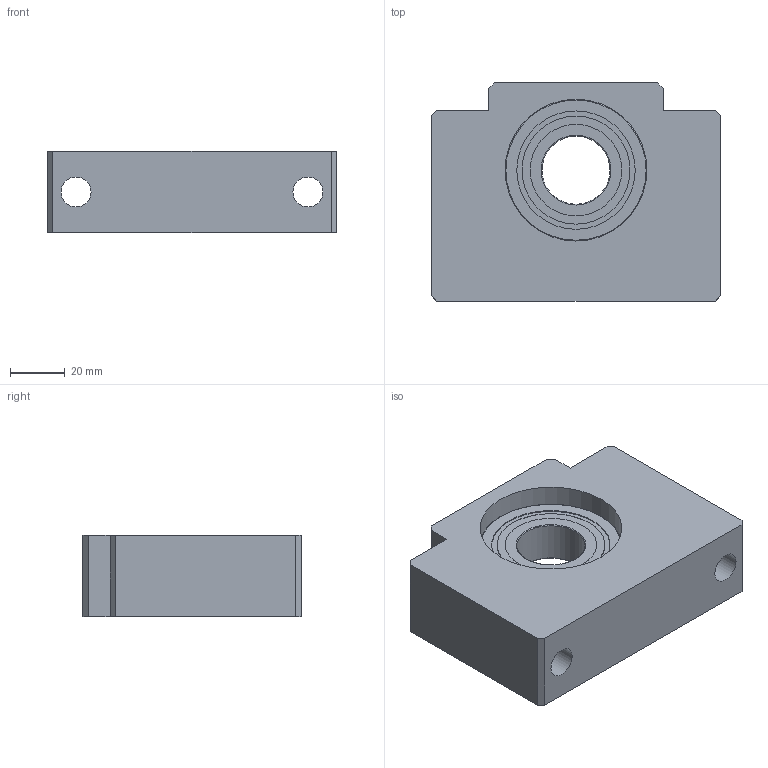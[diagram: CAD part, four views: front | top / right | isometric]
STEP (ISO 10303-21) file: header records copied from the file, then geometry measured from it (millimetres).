
FILE_DESCRIPTION(/* description */ ('STEP AP214'),/* implementation_level */ '2;1');
FILE_NAME(/* name */ 'BF25',/* time_stamp */ '2026-09-17T13:13:39+02:00',/* author */ ('License CC BY-ND 4.0'),/* organization */ ('CADENAS'),/* preprocessor_version */ 'ST-DEVELOPER v20',/* originating_system */ 'PARTsolutions',/* authorisation */ ' ');
FILE_SCHEMA (('AUTOMOTIVE_DESIGN {1 0 10303 214 3 1 1}'));
Length unit declared in the file: millimetre
Products named in the file (3): BF25; BF 25 Part1; BF 25 Part2
Assembly tree (2 placements, depth 2):
  BF25
    BF 25 Part1
    BF 25 Part2
Bounding box: 106 x 80 x 30 mm (x, y, z)
Volume: 185552.8 mm3; surface area: 39609.6 mm2
Topology: 2 solids, 2 shells, 43 faces, 96 edges, 63 vertices
Faces by surface type: plane 26, cylinder 13, torus 4
Full cylindrical faces by diameter (mm): 11 x2, 17.5 x2, 25 x1, 33.6 x2, 39.6 x2, 43.4 x2, 52 x2
Entity records: 1177 total; most frequent: DIRECTION 200, CARTESIAN_POINT 182, ORIENTED_EDGE 152, AXIS2_PLACEMENT_3D 78, EDGE_CURVE 76, EDGE_LOOP 74, FACE_BOUND 74, VERTEX_POINT 60
